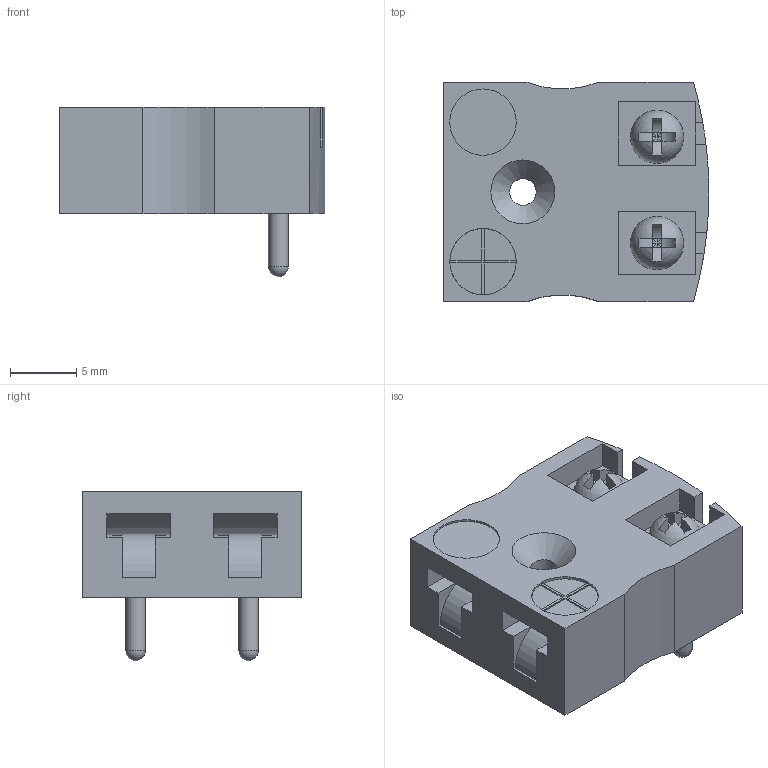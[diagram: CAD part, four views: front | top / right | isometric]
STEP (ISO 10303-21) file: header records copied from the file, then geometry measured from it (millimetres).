
FILE_DESCRIPTION(('FreeCAD Model'),'2;1');
FILE_NAME('Open CASCADE Shape Model','2023-11-30T19:50:28',('Author'),( ''),'Open CASCADE STEP processor 7.6','FreeCAD','Unknown');
FILE_SCHEMA(('AUTOMOTIVE_DESIGN { 1 0 10303 214 1 1 1 1 }'));
Length unit declared in the file: millimetre
Products named in the file (1): Group
Bounding box: 20 x 16.5 x 12.75 mm (x, y, z)
Volume: 2399.3 mm3; surface area: 1499.9 mm2
Topology: 1 solids, 1 shells, 136 faces, 329 edges, 199 vertices
Faces by surface type: plane 91, cylinder 39, sphere 4, cone 2
Full cylindrical faces by diameter (mm): 1.5 x2, 2 x1, 5 x2
Entity records: 9598 total; most frequent: CARTESIAN_POINT 2361, DIRECTION 1090, ORIENTED_EDGE 654, PCURVE 654, DEFINITIONAL_REPRESENTATION 654, LINE 515, VECTOR 515, EDGE_CURVE 327
